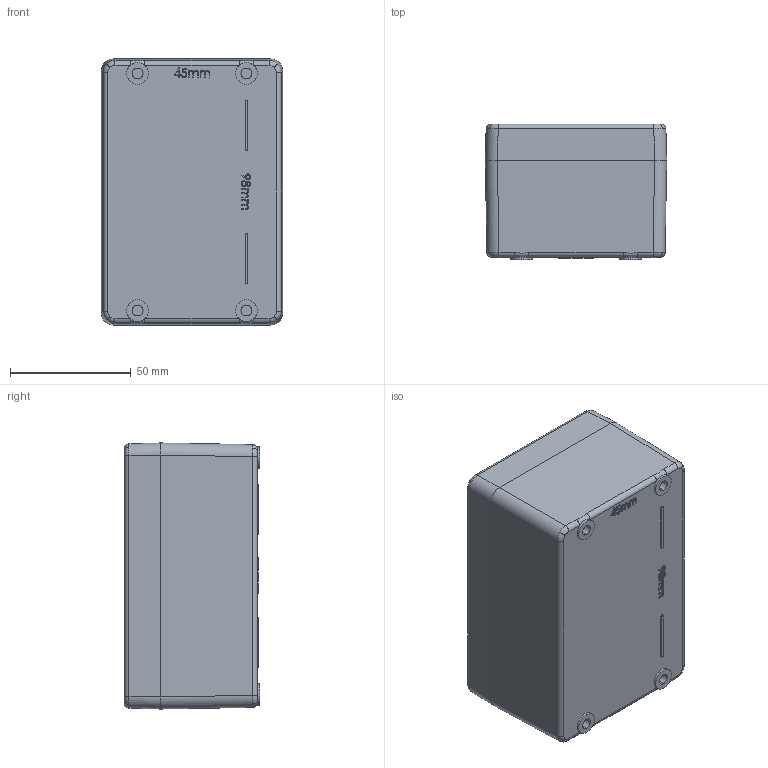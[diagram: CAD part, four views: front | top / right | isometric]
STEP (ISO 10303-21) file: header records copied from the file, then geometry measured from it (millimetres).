
FILE_DESCRIPTION (( 'STEP AP203' ), '1' );
FILE_NAME ('BPG2.STEP', '2014-06-13T09:02:28', ( '' ), ( '' ), 'SwSTEP 2.0', 'SolidWorks 2014', '' );
FILE_SCHEMA (( 'CONFIG_CONTROL_DESIGN' ));
Length unit declared in the file: millimetre
Products named in the file (3): BPG2 Base; BPG2 Lid; BPG2
Assembly tree (2 placements, depth 2):
  BPG2
    BPG2 Base
    BPG2 Lid
Bounding box: 75 x 56 x 110 mm (x, y, z)
Volume: 161322.9 mm3; surface area: 74783.6 mm2
Topology: 2 solids, 2 shells, 441 faces, 1214 edges, 782 vertices
Faces by surface type: plane 161, bspline 150, cylinder 102, cone 20, sphere 8
Entity records: 20290 total; most frequent: CARTESIAN_POINT 10001, ORIENTED_EDGE 2388, DIRECTION 1582, EDGE_CURVE 1194, VERTEX_POINT 782, LINE 622, VECTOR 622, EDGE_LOOP 482
